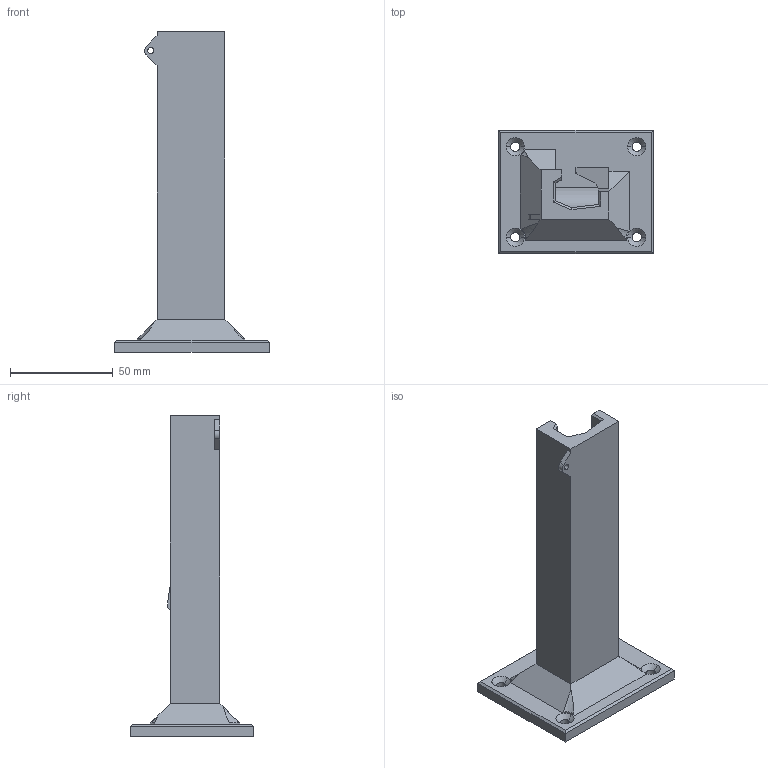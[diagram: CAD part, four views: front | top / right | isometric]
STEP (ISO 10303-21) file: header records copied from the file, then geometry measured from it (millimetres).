
FILE_DESCRIPTION (( 'STEP AP214' ), '1' );
FILE_NAME ('wago222V1.STEP', '2024-12-16T23:04:05', ( '' ), ( '' ), 'SwSTEP 2.0', 'SolidWorks 2020', '' );
FILE_SCHEMA (( 'AUTOMOTIVE_DESIGN' ));
Length unit declared in the file: millimetre
Products named in the file (1): wago222V1
Bounding box: 75 x 60 x 156 mm (x, y, z)
Volume: 93882.5 mm3; surface area: 31824.9 mm2
Topology: 1 solids, 1 shells, 79 faces, 207 edges, 131 vertices
Faces by surface type: plane 48, cylinder 19, cone 12
Entity records: 2478 total; most frequent: CARTESIAN_POINT 492, ORIENTED_EDGE 414, DIRECTION 392, EDGE_CURVE 207, LINE 146, VECTOR 146, VERTEX_POINT 131, AXIS2_PLACEMENT_3D 123
